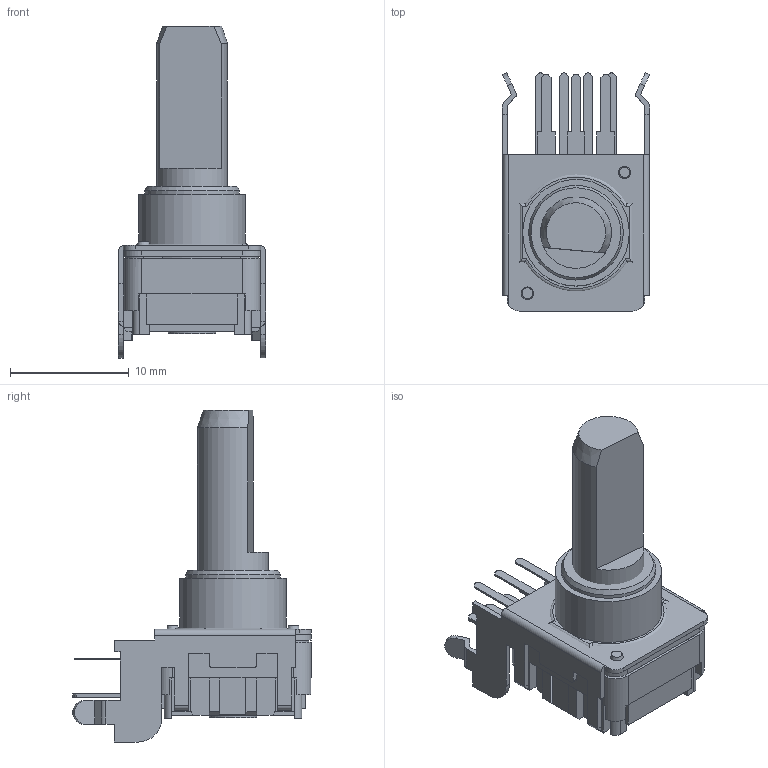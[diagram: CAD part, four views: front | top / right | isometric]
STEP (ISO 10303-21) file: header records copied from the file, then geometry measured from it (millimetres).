
FILE_DESCRIPTION(/* description */ (''),/* implementation_level */ '2;1');
FILE_NAME(/* name */ '\\Forward-ks-ad\開發專區\\X2\9AD896C45EE08A2D8A088AB2\X0\\設計機種開發作業\\X2\91CF75226A5F7A2E5C086848\X0\\ENCODER\機種開發\Encoder\DC12K\3D\CTS\DC12S12117FE01.stp',/* time_stamp */ '2020-06-18T14:27:34+08:00',/* author */ ('jia'),/* organization */ (''),/* preprocessor_version */ 'ST-DEVELOPER v15.2',/* originating_system */ 'Autodesk Inventor 2014',/* authorisation */ '');
FILE_SCHEMA (('AUTOMOTIVE_DESIGN { 1 0 10303 214 3 1 1 }'));
Length unit declared in the file: millimetre
Products named in the file (1): 組合1_Shrinkwrap_1
Bounding box: 12.4 x 20.11 x 28 mm (x, y, z)
Surface area: 2273.7 mm2 (no closed solid volume)
Topology: 0 solids, 23 shells, 293 faces, 852 edges, 568 vertices
Faces by surface type: plane 230, cylinder 57, cone 4, torus 2
Full cylindrical faces by diameter (mm): 4 x1, 6 x1, 7.98 x1, 9 x1
Entity records: 9481 total; most frequent: CARTESIAN_POINT 1771, DIRECTION 1574, ORIENTED_EDGE 1499, EDGE_CURVE 844, LINE 686, VECTOR 686, VERTEX_POINT 567, AXIS2_PLACEMENT_3D 444
